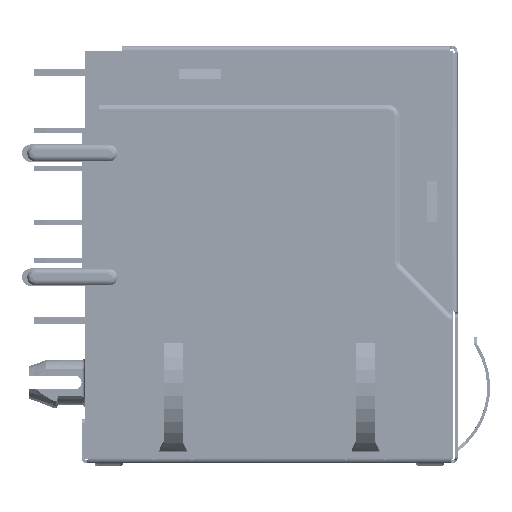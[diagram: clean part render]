
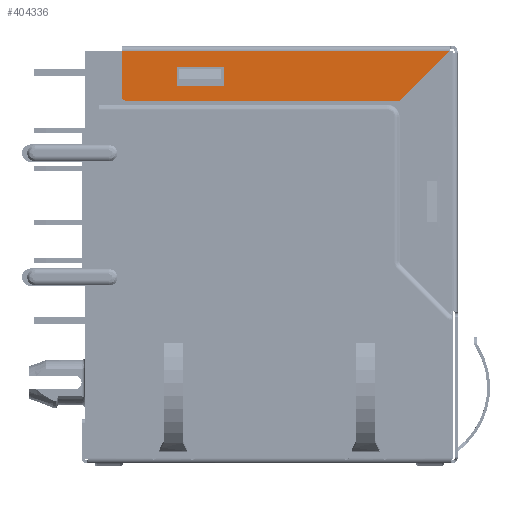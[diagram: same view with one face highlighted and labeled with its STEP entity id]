
A CAD part, left-side view. The second image highlights one B-rep face of the part: STEP entity #404336.
In plain terms, the highlighted planar face has unit normal (-1, 0, 0).
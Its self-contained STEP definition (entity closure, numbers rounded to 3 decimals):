
#363502=DIRECTION('',(0.,1.,0.));
#363503=VECTOR('',#363502,22.175);
#363504=CARTESIAN_POINT('',(-31.875,-12.2,
15.375));
#363505=LINE('',#363504,#363503);
#363510=CARTESIAN_POINT('',(-31.875,-12.2,
15.375));
#363567=CARTESIAN_POINT('',(-31.875,-8.726,
12.325));
#363568=DIRECTION('',(1.,0.,0.));
#363569=DIRECTION('',(0.,-0.707,
-0.707));
#363570=AXIS2_PLACEMENT_3D('',#363567,#363568,#363569);
#363572=CARTESIAN_POINT('',(-31.875,9.675,
12.325));
#363573=DIRECTION('',(1.,0.,0.));
#363574=DIRECTION('',(0.,0.,-1.));
#363575=AXIS2_PLACEMENT_3D('',#363572,#363573,#363574);
#363577=DIRECTION('',(0.,0.,1.));
#363578=VECTOR('',#363577,3.05);
#363579=CARTESIAN_POINT('',(-31.875,9.975,
12.325));
#363580=LINE('',#363579,#363578);
#363581=DIRECTION('',(0.,0.707,-0.707));
#363582=VECTOR('',#363581,4.613);
#363583=CARTESIAN_POINT('',(-31.875,-12.2,
15.375));
#363584=LINE('',#363583,#363582);
#363585=DIRECTION('',(0.,1.,0.));
#363586=VECTOR('',#363585,3.2);
#363587=CARTESIAN_POINT('',(-31.875,3.025,
14.305));
#363588=LINE('',#363587,#363586);
#363589=DIRECTION('',(0.,0.,-1.));
#363590=VECTOR('',#363589,1.3);
#363591=CARTESIAN_POINT('',(-31.875,6.225,
14.305));
#363592=LINE('',#363591,#363590);
#363593=DIRECTION('',(0.,-1.,0.));
#363594=VECTOR('',#363593,3.2);
#363595=CARTESIAN_POINT('',(-31.875,6.225,
13.005));
#363596=LINE('',#363595,#363594);
#363597=DIRECTION('',(0.,0.,1.));
#363598=VECTOR('',#363597,1.3);
#363599=CARTESIAN_POINT('',(-31.875,3.025,
13.005));
#363600=LINE('',#363599,#363598);
#363601=DIRECTION('',(0.,-1.,0.));
#363602=VECTOR('',#363601,18.401);
#363603=CARTESIAN_POINT('',(-31.875,9.675,
12.025));
#363604=LINE('',#363603,#363602);
#370319=CARTESIAN_POINT('',(-31.875,9.975,
15.375));
#370320=VERTEX_POINT('',#370319);
#370321=CARTESIAN_POINT('',(-31.875,9.975,
12.325));
#370322=VERTEX_POINT('',#370321);
#372833=VERTEX_POINT('',#363510);
#372849=CARTESIAN_POINT('',(-31.875,-8.938,
12.113));
#372850=CARTESIAN_POINT('',(-31.875,-8.726,
12.025));
#372851=VERTEX_POINT('',#372849);
#372852=VERTEX_POINT('',#372850);
#372853=CARTESIAN_POINT('',(-31.875,9.675,
12.025));
#372854=VERTEX_POINT('',#372853);
#372855=CARTESIAN_POINT('',(-31.875,3.025,
14.305));
#372856=CARTESIAN_POINT('',(-31.875,6.225,
14.305));
#372857=VERTEX_POINT('',#372855);
#372858=VERTEX_POINT('',#372856);
#372859=CARTESIAN_POINT('',(-31.875,6.225,
13.005));
#372860=VERTEX_POINT('',#372859);
#372861=CARTESIAN_POINT('',(-31.875,3.025,
13.005));
#372862=VERTEX_POINT('',#372861);
#404310=CARTESIAN_POINT('',(-31.875,-12.375,
15.375));
#404311=DIRECTION('',(1.,0.,0.));
#404312=DIRECTION('',(0.,0.,-1.));
#404313=AXIS2_PLACEMENT_3D('',#404310,#404311,#404312);
#404314=PLANE('',#404313);
#404315=ORIENTED_EDGE('',*,*,#404300,.T.);
#404317=ORIENTED_EDGE('',*,*,#404316,.F.);
#404319=ORIENTED_EDGE('',*,*,#404318,.T.);
#404320=ORIENTED_EDGE('',*,*,#378284,.T.);
#404321=ORIENTED_EDGE('',*,*,#404200,.F.);
#404323=ORIENTED_EDGE('',*,*,#404322,.T.);
#404324=EDGE_LOOP('',(#404315,#404317,#404319,#404320,#404321,#404323));
#404325=FACE_OUTER_BOUND('',#404324,.F.);
#404327=ORIENTED_EDGE('',*,*,#404326,.T.);
#404329=ORIENTED_EDGE('',*,*,#404328,.T.);
#404331=ORIENTED_EDGE('',*,*,#404330,.T.);
#404333=ORIENTED_EDGE('',*,*,#404332,.T.);
#404334=EDGE_LOOP('',(#404327,#404329,#404331,#404333));
#404335=FACE_BOUND('',#404334,.F.);
#404336=ADVANCED_FACE('',(#404325,#404335),#404314,.F.);
#363571=CIRCLE('',#363570,0.3);
#363576=CIRCLE('',#363575,0.3);
#378284=EDGE_CURVE('',#370322,#370320,#363580,.T.);
#404200=EDGE_CURVE('',#372833,#370320,#363505,.T.);
#404300=EDGE_CURVE('',#372851,#372852,#363571,.T.);
#404316=EDGE_CURVE('',#372854,#372852,#363604,.T.);
#404318=EDGE_CURVE('',#372854,#370322,#363576,.T.);
#404322=EDGE_CURVE('',#372833,#372851,#363584,.T.);
#404326=EDGE_CURVE('',#372857,#372858,#363588,.T.);
#404328=EDGE_CURVE('',#372858,#372860,#363592,.T.);
#404330=EDGE_CURVE('',#372860,#372862,#363596,.T.);
#404332=EDGE_CURVE('',#372862,#372857,#363600,.T.);
